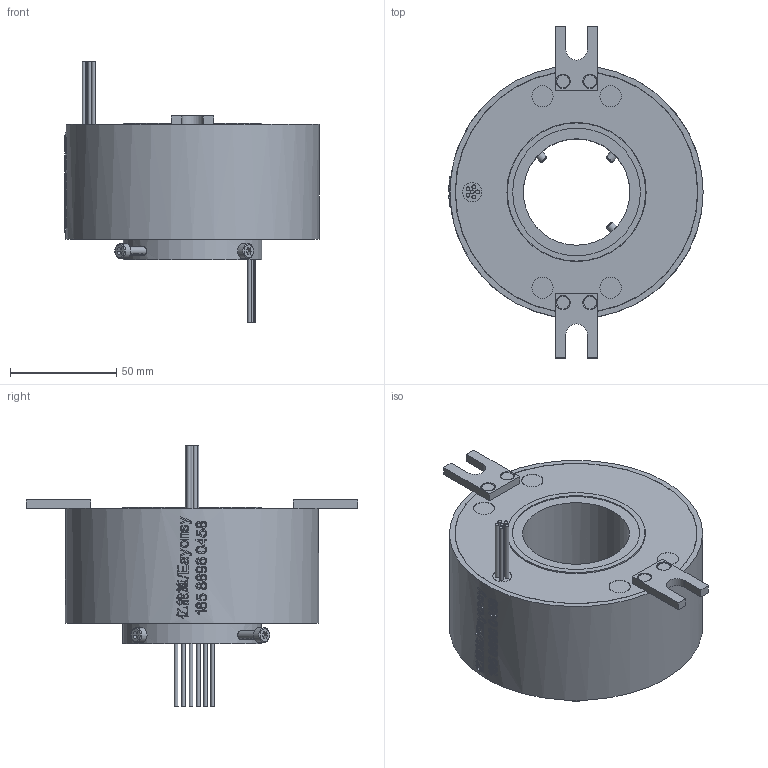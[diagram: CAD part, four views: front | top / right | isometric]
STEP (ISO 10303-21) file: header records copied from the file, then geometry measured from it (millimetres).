
FILE_DESCRIPTION(/* description */ (''),/* implementation_level */ '2;1');
FILE_NAME(/* name */ 'YD50119-0610-3D模型.stp',/* time_stamp */ '2025-09-04T08:58:59+08:00',/* author */ (''),/* organization */ (''),/* preprocessor_version */ 'ST-DEVELOPER v16.7',/* originating_system */ 'SIEMENS PLM Software NX 12.0',/* authorisation */ '');
FILE_SCHEMA (('AUTOMOTIVE_DESIGN { 1 0 10303 214 3 1 1 1 }'));
Length unit declared in the file: millimetre
Products named in the file (1): Admi3138F06C1fld
Bounding box: 119.5 x 156 x 123.1 mm (x, y, z)
Volume: 512895.2 mm3; surface area: 58080.5 mm2
Topology: 1 solids, 5 shells, 904 faces, 2411 edges, 1605 vertices
Faces by surface type: extrusion 452, plane 328, cylinder 75, bspline 33, cone 12, torus 4
Full cylindrical faces by diameter (mm): 1.8 x12, 3 x4, 3.4 x1, 3.5 x4, 4 x7, 6 x4, 7 x4, 9 x1, 10 x4, 50 x1, 60 x1, 65 x2, 65.4 x1, 113.8 x2, 114 x2, 119 x1
Entity records: 35832 total; most frequent: CARTESIAN_POINT 16964, ORIENTED_EDGE 4632, EDGE_CURVE 2316, B_SPLINE_CURVE_WITH_KNOTS 2203, DIRECTION 2140, VERTEX_POINT 1577, EDGE_LOOP 1073, ADVANCED_FACE 904
